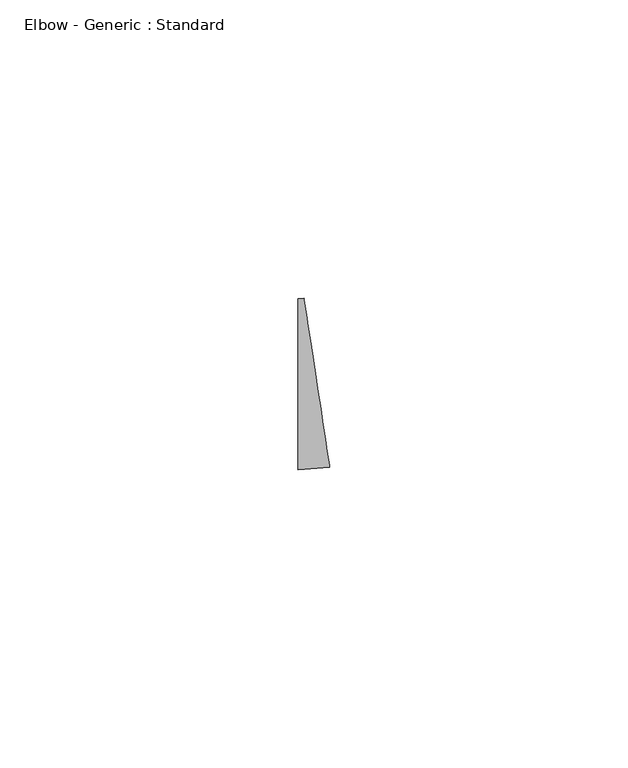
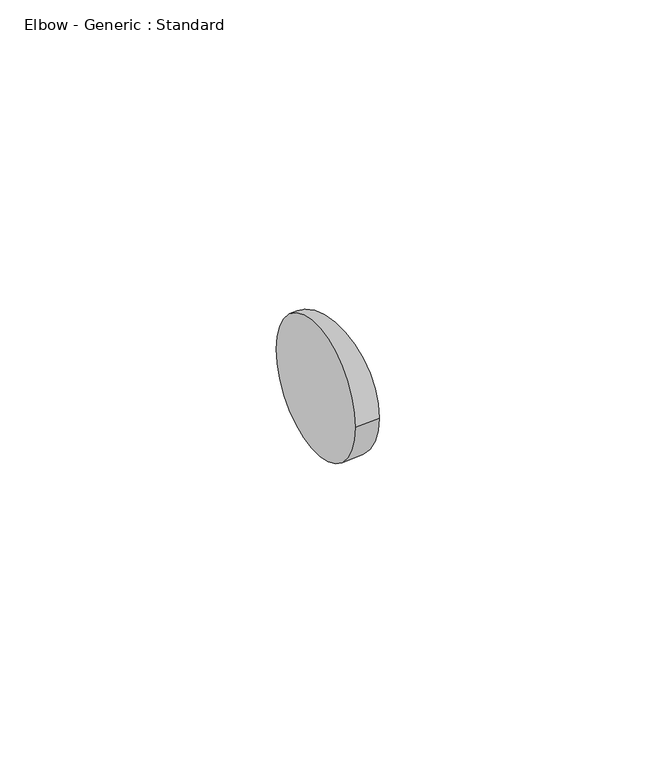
"""IFC4 building model written with IfcOpenShell, lengths in millimetres: pipe fitting geometry, Elbow - Generic : Standard."""

from ifc_helpers import new_model, si_unit, point, frame, origin, place, context, project, spatial, circle_curve, ellipse_curve, trimmed, source, transform, mapped, element, save
from ifc_brep_helpers import plane_surface, revolved_surface, advanced_brep


def elbow_generic_standard_be2ddd46(model_context):
    return source(origin(), model_context, "Body", "AdvancedBrep", [
        advanced_brep(
        [(-1.5633578, -14.2875, 0.0), (-1.5633578, 14.2875, 0.0), (3.6978154, -13.888949, 0.0), (-0.6067808, 14.3599638, 0.0)],
        [
            (0, 1, circle_curve(frame((-1.5633578, 0.0, 0.0), z_axis=(-1.0, 0.0, 0.0), x_axis=(0.0, 1.0, 0.0)), 14.2875)),
            (1, 0, circle_curve(frame((-1.5633578, 0.0, 0.0), z_axis=(-1.0, 0.0, 0.0), x_axis=(0.0, 1.0, 0.0)), 14.2875)),
            (2, 3, circle_curve(frame((1.5455173, 0.2355074, 0.0), z_axis=(0.9885883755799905, 0.15064203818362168, 0.0), x_axis=(-0.15064203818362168, 0.9885883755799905, 0.0)), 14.2875)),
            (3, 2, circle_curve(frame((1.5455173, 0.2355074, 0.0), z_axis=(0.9885883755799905, 0.15064203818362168, 0.0), x_axis=(-0.15064203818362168, 0.9885883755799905, 0.0)), 14.2875)),
            (3, 1, circle_curve(frame((-1.5633578, 20.6375, 0.0), z_axis=(0.0, 0.0, -1.0), x_axis=(0.0, -1.0, 0.0)), 6.35)),
            (0, 2, circle_curve(frame((-1.5633578, 20.6375, 0.0), z_axis=(0.0, 0.0, 1.0), x_axis=(0.0, -1.0, 0.0)), 34.925)),
        ],
        [
            plane_surface(frame((-1.5633578, 0.0, 0.0), z_axis=(-1.0, 0.0, 0.0), x_axis=(0.0, 0.0, 1.0))),
            plane_surface(frame((1.5455173, 0.2355074, 0.0), z_axis=(0.9885883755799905, 0.15064203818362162, 0.0), x_axis=(0.0, 0.0, 1.0))),
            revolved_surface(trimmed(ellipse_curve(frame((-1.5633578, 0.0, 0.0), z_axis=(-1.0, 0.0, 0.0), x_axis=(0.0, 1.0, 0.0)), 14.2875, 14.2875), [point((-1.5633578, -14.2875, 0.0))], [point((-1.5633578, 14.2875, 0.0))], True, "CARTESIAN"), (-1.5633578, 20.6375, 0.0), (0.0, 0.0, 1.0)),
            revolved_surface(trimmed(ellipse_curve(frame((-1.5633578, 0.0, 0.0), z_axis=(-1.0, 0.0, 0.0), x_axis=(0.0, 1.0, 0.0)), 14.2875, 14.2875), [point((-1.5633578, 14.2875, 0.0))], [point((-1.5633578, -14.2875, 0.0))], True, "CARTESIAN"), (-1.5633578, 20.6375, 0.0), (0.0, 0.0, 1.0)),
        ],
        [
            (0, [[1, 2]]),
            (1, [[3, 4]]),
            (2, [[5, -1, 6, -4]]),
            (3, [[-6, -2, -5, -3]]),
        ],
    ),
    ])


if __name__ == "__main__":
    model = new_model("IFC4")
    model_context = context("Model", 3, world=origin())
    ifc_project = project(units=[si_unit("LENGTHUNIT", "METRE", prefix="MILLI")], contexts=[model_context])
    site = spatial("IfcSite", under=ifc_project)
    building = spatial("IfcBuilding", under=site)
    placement = place(None, origin())
    elbow_generic_standard_shape = elbow_generic_standard_be2ddd46(model_context)
    element("IfcPipeFitting", 1, ObjectType="Elbow - Generic : Standard", at=placement, inside=building, context=model_context, shape_type="MappedRepresentation", body=[
        mapped(elbow_generic_standard_shape, transform((0.0, 0.0, 0.0), x_axis=(1.0, 0.0, 0.0), y_axis=(0.0, 1.0, 0.0), z_axis=(0.0, 0.0, 1.0))),
    ])
    save(model, "model.ifc")
